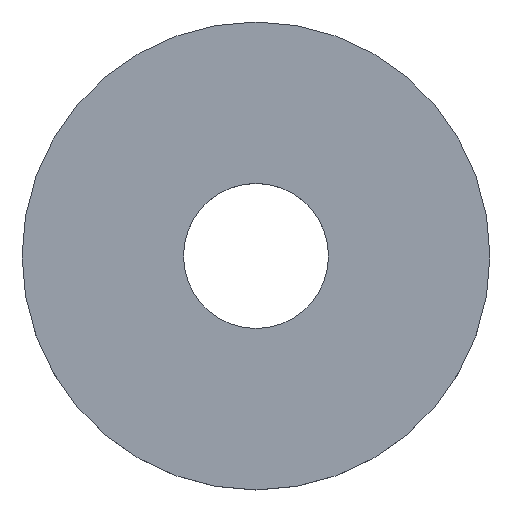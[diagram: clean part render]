
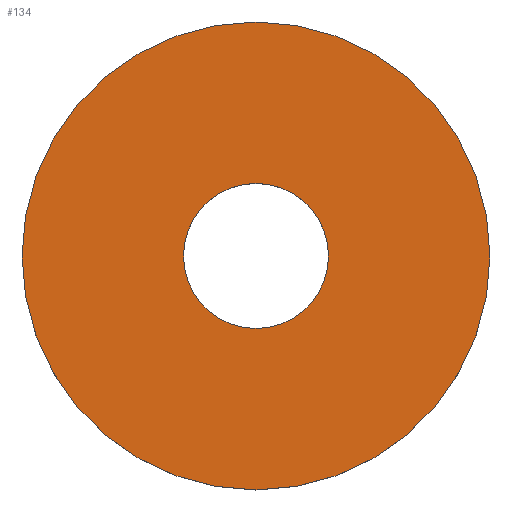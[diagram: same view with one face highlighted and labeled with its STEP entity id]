
A CAD part, top view. The second image highlights one B-rep face of the part: STEP entity #134.
In plain terms, the highlighted planar face has unit normal (0, 0, 1).
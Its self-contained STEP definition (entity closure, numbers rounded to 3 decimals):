
#29=CARTESIAN_POINT('',(0.,0.,1.));
#30=DIRECTION('',(0.,0.,1.));
#31=DIRECTION('',(1.,0.,0.));
#32=AXIS2_PLACEMENT_3D('',#29,#30,#31);
#34=CARTESIAN_POINT('',(0.,0.,1.));
#35=DIRECTION('',(0.,0.,1.));
#36=DIRECTION('',(-1.,0.,0.));
#37=AXIS2_PLACEMENT_3D('',#34,#35,#36);
#39=CARTESIAN_POINT('',(0.,0.,1.));
#40=DIRECTION('',(0.,0.,-1.));
#41=DIRECTION('',(1.,0.,0.));
#42=AXIS2_PLACEMENT_3D('',#39,#40,#41);
#44=CARTESIAN_POINT('',(0.,0.,1.));
#45=DIRECTION('',(0.,0.,-1.));
#46=DIRECTION('',(-1.,0.,0.));
#47=AXIS2_PLACEMENT_3D('',#44,#45,#46);
#65=CARTESIAN_POINT('',(10.,0.,1.));
#66=CARTESIAN_POINT('',(-10.,0.,1.));
#67=VERTEX_POINT('',#65);
#68=VERTEX_POINT('',#66);
#69=CARTESIAN_POINT('',(3.1,0.,1.));
#70=CARTESIAN_POINT('',(-3.1,0.,1.));
#71=VERTEX_POINT('',#69);
#72=VERTEX_POINT('',#70);
#119=CARTESIAN_POINT('',(0.,0.,1.));
#120=DIRECTION('',(0.,0.,1.));
#121=DIRECTION('',(1.,0.,0.));
#122=AXIS2_PLACEMENT_3D('',#119,#120,#121);
#123=PLANE('',#122);
#124=ORIENTED_EDGE('',*,*,#99,.F.);
#125=ORIENTED_EDGE('',*,*,#113,.F.);
#126=EDGE_LOOP('',(#124,#125));
#127=FACE_OUTER_BOUND('',#126,.F.);
#129=ORIENTED_EDGE('',*,*,#128,.F.);
#131=ORIENTED_EDGE('',*,*,#130,.F.);
#132=EDGE_LOOP('',(#129,#131));
#133=FACE_BOUND('',#132,.F.);
#134=ADVANCED_FACE('',(#127,#133),#123,.T.);
#33=CIRCLE('',#32,10.);
#38=CIRCLE('',#37,10.);
#43=CIRCLE('',#42,3.1);
#48=CIRCLE('',#47,3.1);
#99=EDGE_CURVE('',#67,#68,#33,.T.);
#113=EDGE_CURVE('',#68,#67,#38,.T.);
#128=EDGE_CURVE('',#71,#72,#43,.T.);
#130=EDGE_CURVE('',#72,#71,#48,.T.);
